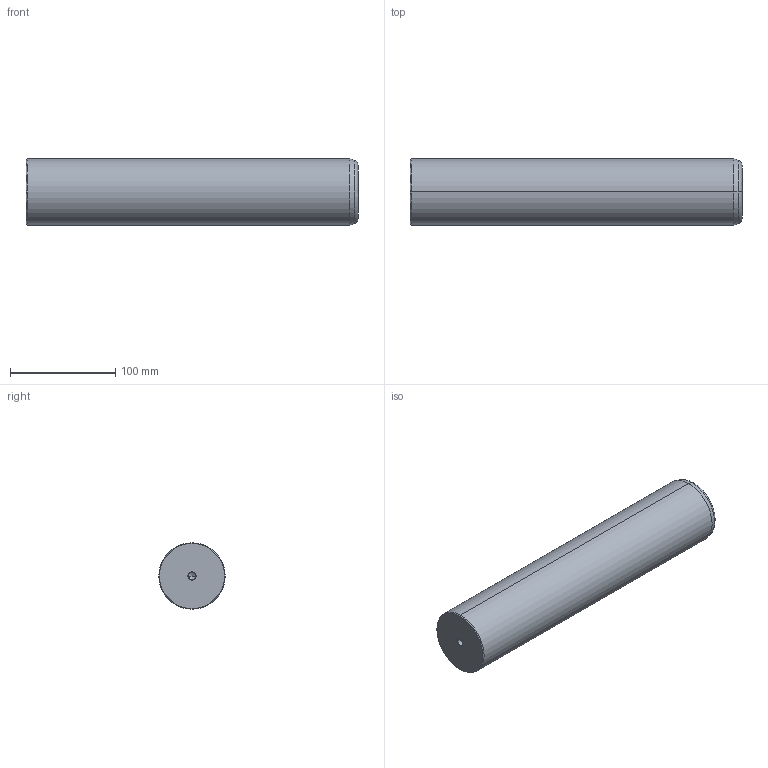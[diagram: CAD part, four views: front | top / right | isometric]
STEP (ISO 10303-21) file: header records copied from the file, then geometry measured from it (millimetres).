
FILE_DESCRIPTION(('CATIA V5 STEP Exchange'),'2;1');
FILE_NAME('C:\Users\Utente\Desktop\IO LAVORO\3D X SITO CF\X SITO\720\720-63x315.stp','2020-12-30T21:28:21+00:00',('none'),('none'),'CATIA Version 5 Release 20 GA (IN-10)','CATIA V5 STEP AP203','none');
FILE_SCHEMA(('CONFIG_CONTROL_DESIGN'));
Length unit declared in the file: millimetre
Products named in the file (1): 720-63x315
Bounding box: 315 x 63 x 63 mm (x, y, z)
Volume: 977987.2 mm3; surface area: 68867.5 mm2
Topology: 1 solids, 1 shells, 22 faces, 62 edges, 40 vertices
Faces by surface type: cone 12, cylinder 6, plane 2, torus 2
Entity records: 806 total; most frequent: CARTESIAN_POINT 229, ORIENTED_EDGE 116, DIRECTION 93, EDGE_CURVE 58, AXIS2_PLACEMENT_3D 54, VERTEX_POINT 40, CIRCLE 31, EDGE_LOOP 24
